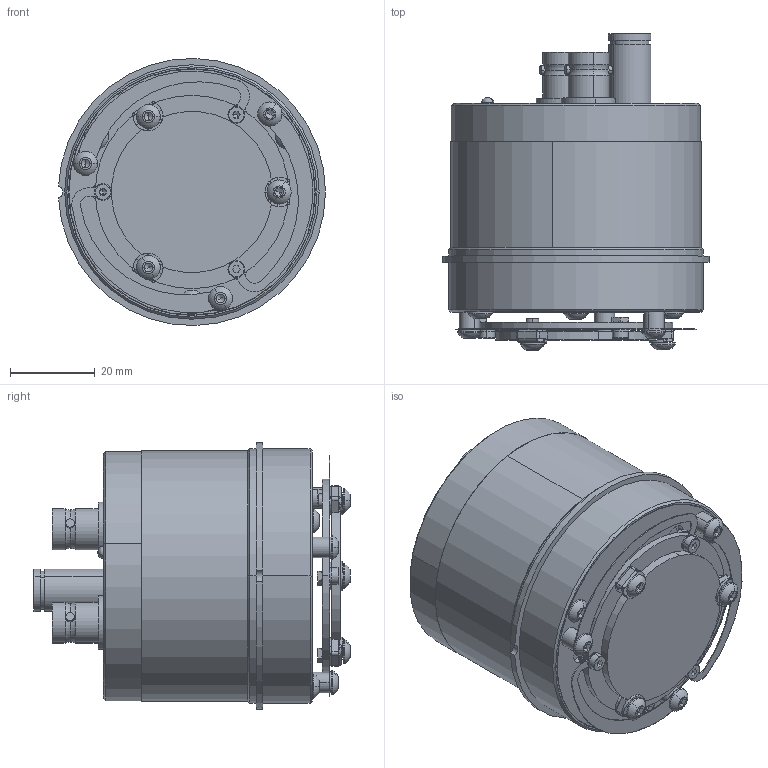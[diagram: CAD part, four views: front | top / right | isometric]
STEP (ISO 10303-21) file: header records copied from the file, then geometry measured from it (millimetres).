
FILE_DESCRIPTION (( 'STEP AP214' ), '1' );
FILE_NAME ('Model3D_CYA-A38.STEP', '2010-09-16T01:02:44', ( '' ), ( '' ), 'SwSTEP 2.0', 'SolidWorks 2011', '' );
FILE_SCHEMA (( 'AUTOMOTIVE_DESIGN' ));
Length unit declared in the file: millimetre
Products named in the file (1): Model3D_CYA-A38
Bounding box: 62.97 x 74.54 x 62.98 mm (x, y, z)
Surface area: 27058.2 mm2 (no closed solid volume)
Topology: 0 solids, 48 shells, 497 faces, 1613 edges, 1091 vertices
Faces by surface type: plane 227, cylinder 187, cone 41, sphere 26, torus 16
Entity records: 23250 total; most frequent: CARTESIAN_POINT 3588, DIRECTION 3197, ORIENTED_EDGE 2574, EDGE_CURVE 1583, AXIS2_PLACEMENT_3D 1234, VERTEX_POINT 1091, CIRCLE 736, VECTOR 729
